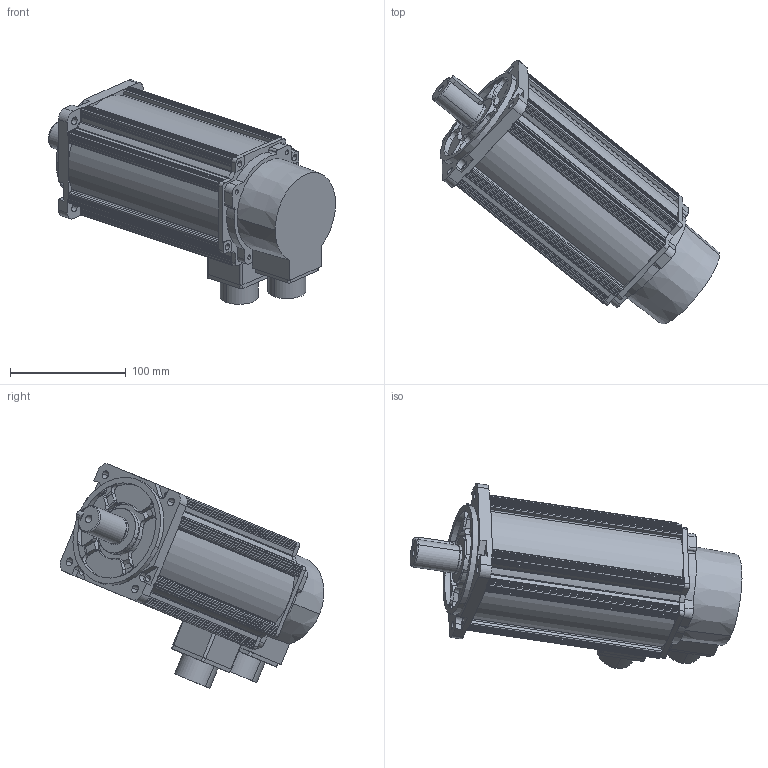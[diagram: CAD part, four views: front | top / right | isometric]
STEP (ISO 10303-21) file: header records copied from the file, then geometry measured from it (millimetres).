
FILE_DESCRIPTION (( 'STEP AP203' ), '1' );
FILE_NAME ('AS2MJ-10-2530C-H322.STEP', '2024-07-09T03:32:39', ( 'Admin' ), ( '' ), 'SwSTEP 2.0', 'SolidWorks 2018', '' );
FILE_SCHEMA (( 'CONFIG_CONTROL_DESIGN' ));
Length unit declared in the file: millimetre
Products named in the file (1): AS2MJ-10-2530C-H322
Bounding box: 247.91 x 228.03 x 194.01 mm (x, y, z)
Volume: 560749.1 mm3; surface area: 272897.3 mm2
Topology: 10 solids, 10 shells, 743 faces, 2086 edges, 1335 vertices
Faces by surface type: plane 365, cylinder 322, bspline 35, cone 21
Entity records: 24677 total; most frequent: CARTESIAN_POINT 5220, DIRECTION 4084, ORIENTED_EDGE 4036, EDGE_CURVE 2018, AXIS2_PLACEMENT_3D 1383, VERTEX_POINT 1335, VECTOR 1318, LINE 1318
